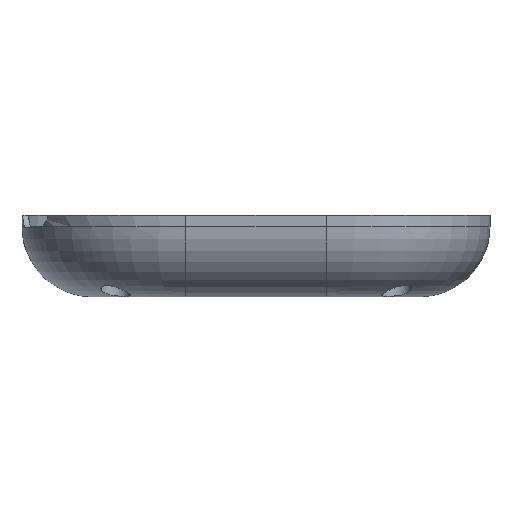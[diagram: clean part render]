
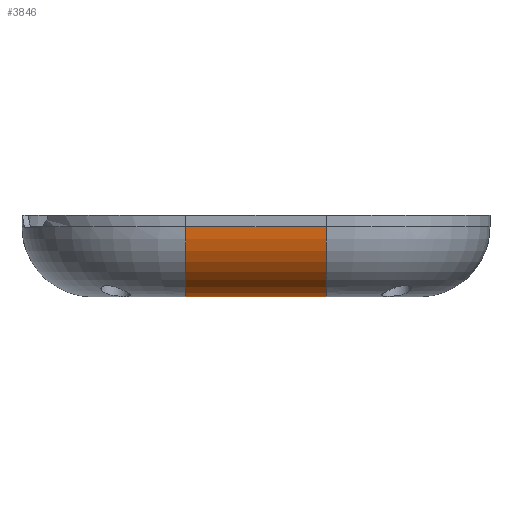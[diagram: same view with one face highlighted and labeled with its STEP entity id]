
A CAD part, front view. The second image highlights one B-rep face of the part: STEP entity #3846.
In plain terms, the highlighted cylindrical face has radius 12 mm (diameter 24 mm), a partial arc.
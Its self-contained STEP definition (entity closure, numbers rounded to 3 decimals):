
#164 = TOROIDAL_SURFACE('',#165,16.,12.);
#165 = AXIS2_PLACEMENT_3D('',#166,#167,#168);
#166 = CARTESIAN_POINT('',(-12.,-36.,12.));
#167 = DIRECTION('',(0.,0.,1.));
#168 = DIRECTION('',(-1.,0.,0.));
#784 = PLANE('',#785);
#785 = AXIS2_PLACEMENT_3D('',#786,#787,#788);
#786 = CARTESIAN_POINT('',(-40.,-64.,0.));
#787 = DIRECTION('',(0.,0.,1.));
#788 = DIRECTION('',(1.,0.,-0.));
#951 = VERTEX_POINT('',#952);
#952 = CARTESIAN_POINT('',(-12.,-52.,0.));
#974 = EDGE_CURVE('',#951,#975,#977,.T.);
#975 = VERTEX_POINT('',#976);
#976 = CARTESIAN_POINT('',(-12.,-64.,12.));
#977 = SURFACE_CURVE('',#978,(#983,#989),.PCURVE_S1.);
#978 = CIRCLE('',#979,12.);
#979 = AXIS2_PLACEMENT_3D('',#980,#981,#982);
#980 = CARTESIAN_POINT('',(-12.,-52.,12.));
#981 = DIRECTION('',(-1.,0.,0.));
#982 = DIRECTION('',(0.,-1.,0.));
#983 = PCURVE('',#164,#984);
#984 = DEFINITIONAL_REPRESENTATION('',(#985),#988);
#985 = B_SPLINE_CURVE_WITH_KNOTS('',1,(#986,#987),.UNSPECIFIED.,.F.,.F.,
  (2,2),(4.712,6.283),.PIECEWISE_BEZIER_KNOTS.);
#986 = CARTESIAN_POINT('',(1.571,4.712));
#987 = CARTESIAN_POINT('',(1.571,6.283));
#988 = ( GEOMETRIC_REPRESENTATION_CONTEXT(2) 
PARAMETRIC_REPRESENTATION_CONTEXT() REPRESENTATION_CONTEXT('2D SPACE',''
  ) );
#989 = PCURVE('',#990,#995);
#990 = CYLINDRICAL_SURFACE('',#991,12.);
#991 = AXIS2_PLACEMENT_3D('',#992,#993,#994);
#992 = CARTESIAN_POINT('',(-12.,-52.,12.));
#993 = DIRECTION('',(1.,0.,0.));
#994 = DIRECTION('',(0.,0.,-1.));
#995 = DEFINITIONAL_REPRESENTATION('',(#996),#999);
#996 = B_SPLINE_CURVE_WITH_KNOTS('',1,(#997,#998),.UNSPECIFIED.,.F.,.F.,
  (2,2),(4.712,6.283),.PIECEWISE_BEZIER_KNOTS.);
#997 = CARTESIAN_POINT('',(6.283,0.));
#998 = CARTESIAN_POINT('',(4.712,0.));
#999 = ( GEOMETRIC_REPRESENTATION_CONTEXT(2) 
PARAMETRIC_REPRESENTATION_CONTEXT() REPRESENTATION_CONTEXT('2D SPACE',''
  ) );
#1869 = EDGE_CURVE('',#951,#1870,#1872,.T.);
#1870 = VERTEX_POINT('',#1871);
#1871 = CARTESIAN_POINT('',(12.,-52.,0.));
#1872 = SURFACE_CURVE('',#1873,(#1877,#1884),.PCURVE_S1.);
#1873 = LINE('',#1874,#1875);
#1874 = CARTESIAN_POINT('',(-12.,-52.,0.));
#1875 = VECTOR('',#1876,1.);
#1876 = DIRECTION('',(1.,0.,0.));
#1877 = PCURVE('',#784,#1878);
#1878 = DEFINITIONAL_REPRESENTATION('',(#1879),#1883);
#1879 = LINE('',#1880,#1881);
#1880 = CARTESIAN_POINT('',(28.,12.));
#1881 = VECTOR('',#1882,1.);
#1882 = DIRECTION('',(1.,0.));
#1883 = ( GEOMETRIC_REPRESENTATION_CONTEXT(2) 
PARAMETRIC_REPRESENTATION_CONTEXT() REPRESENTATION_CONTEXT('2D SPACE',''
  ) );
#1884 = PCURVE('',#990,#1885);
#1885 = DEFINITIONAL_REPRESENTATION('',(#1886),#1890);
#1886 = LINE('',#1887,#1888);
#1887 = CARTESIAN_POINT('',(6.283,0.));
#1888 = VECTOR('',#1889,1.);
#1889 = DIRECTION('',(-0.,1.));
#1890 = ( GEOMETRIC_REPRESENTATION_CONTEXT(2) 
PARAMETRIC_REPRESENTATION_CONTEXT() REPRESENTATION_CONTEXT('2D SPACE',''
  ) );
#1909 = TOROIDAL_SURFACE('',#1910,16.,12.);
#1910 = AXIS2_PLACEMENT_3D('',#1911,#1912,#1913);
#1911 = CARTESIAN_POINT('',(12.,-36.,12.));
#1912 = DIRECTION('',(0.,0.,1.));
#1913 = DIRECTION('',(0.,-1.,0.));
#3846 = ADVANCED_FACE('',(#3847),#990,.T.);
#3847 = FACE_BOUND('',#3848,.T.);
#3848 = EDGE_LOOP('',(#3849,#3850,#3872,#3898));
#3849 = ORIENTED_EDGE('',*,*,#1869,.T.);
#3850 = ORIENTED_EDGE('',*,*,#3851,.T.);
#3851 = EDGE_CURVE('',#1870,#3852,#3854,.T.);
#3852 = VERTEX_POINT('',#3853);
#3853 = CARTESIAN_POINT('',(12.,-64.,12.));
#3854 = SURFACE_CURVE('',#3855,(#3860,#3866),.PCURVE_S1.);
#3855 = CIRCLE('',#3856,12.);
#3856 = AXIS2_PLACEMENT_3D('',#3857,#3858,#3859);
#3857 = CARTESIAN_POINT('',(12.,-52.,12.));
#3858 = DIRECTION('',(-1.,-0.,-0.));
#3859 = DIRECTION('',(0.,0.,-1.));
#3860 = PCURVE('',#990,#3861);
#3861 = DEFINITIONAL_REPRESENTATION('',(#3862),#3865);
#3862 = B_SPLINE_CURVE_WITH_KNOTS('',1,(#3863,#3864),.UNSPECIFIED.,.F.,
  .F.,(2,2),(0.,1.571),.PIECEWISE_BEZIER_KNOTS.);
#3863 = CARTESIAN_POINT('',(6.283,24.));
#3864 = CARTESIAN_POINT('',(4.712,24.));
#3865 = ( GEOMETRIC_REPRESENTATION_CONTEXT(2) 
PARAMETRIC_REPRESENTATION_CONTEXT() REPRESENTATION_CONTEXT('2D SPACE',''
  ) );
#3866 = PCURVE('',#1909,#3867);
#3867 = DEFINITIONAL_REPRESENTATION('',(#3868),#3871);
#3868 = B_SPLINE_CURVE_WITH_KNOTS('',1,(#3869,#3870),.UNSPECIFIED.,.F.,
  .F.,(2,2),(0.,1.571),.PIECEWISE_BEZIER_KNOTS.);
#3869 = CARTESIAN_POINT('',(0.,4.712));
#3870 = CARTESIAN_POINT('',(0.,6.283));
#3871 = ( GEOMETRIC_REPRESENTATION_CONTEXT(2) 
PARAMETRIC_REPRESENTATION_CONTEXT() REPRESENTATION_CONTEXT('2D SPACE',''
  ) );
#3872 = ORIENTED_EDGE('',*,*,#3873,.F.);
#3873 = EDGE_CURVE('',#975,#3852,#3874,.T.);
#3874 = SURFACE_CURVE('',#3875,(#3879,#3886),.PCURVE_S1.);
#3875 = LINE('',#3876,#3877);
#3876 = CARTESIAN_POINT('',(-12.,-64.,12.));
#3877 = VECTOR('',#3878,1.);
#3878 = DIRECTION('',(1.,0.,0.));
#3879 = PCURVE('',#990,#3880);
#3880 = DEFINITIONAL_REPRESENTATION('',(#3881),#3885);
#3881 = LINE('',#3882,#3883);
#3882 = CARTESIAN_POINT('',(4.712,0.));
#3883 = VECTOR('',#3884,1.);
#3884 = DIRECTION('',(-0.,1.));
#3885 = ( GEOMETRIC_REPRESENTATION_CONTEXT(2) 
PARAMETRIC_REPRESENTATION_CONTEXT() REPRESENTATION_CONTEXT('2D SPACE',''
  ) );
#3886 = PCURVE('',#3887,#3892);
#3887 = PLANE('',#3888);
#3888 = AXIS2_PLACEMENT_3D('',#3889,#3890,#3891);
#3889 = CARTESIAN_POINT('',(-40.,-64.,0.));
#3890 = DIRECTION('',(0.,1.,0.));
#3891 = DIRECTION('',(0.,-0.,1.));
#3892 = DEFINITIONAL_REPRESENTATION('',(#3893),#3897);
#3893 = LINE('',#3894,#3895);
#3894 = CARTESIAN_POINT('',(12.,28.));
#3895 = VECTOR('',#3896,1.);
#3896 = DIRECTION('',(0.,1.));
#3897 = ( GEOMETRIC_REPRESENTATION_CONTEXT(2) 
PARAMETRIC_REPRESENTATION_CONTEXT() REPRESENTATION_CONTEXT('2D SPACE',''
  ) );
#3898 = ORIENTED_EDGE('',*,*,#974,.F.);
